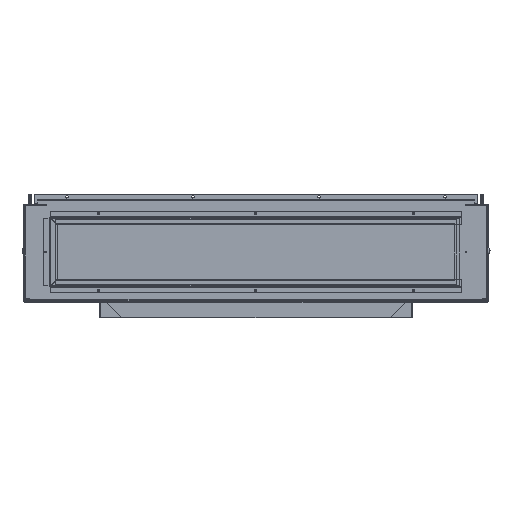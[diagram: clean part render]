
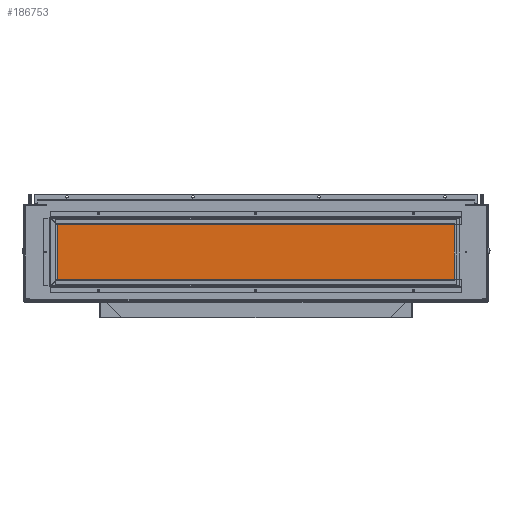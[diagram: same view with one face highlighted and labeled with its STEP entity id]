
A CAD part, front view. The second image highlights one B-rep face of the part: STEP entity #186753.
In plain terms, the highlighted planar face has unit normal (0, -1, 0).
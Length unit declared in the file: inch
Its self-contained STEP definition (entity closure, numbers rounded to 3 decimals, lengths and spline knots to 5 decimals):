
#25 = LINE ( 'NONE', #131929, #170456 ) ;
#16052 = LINE ( 'NONE', #179492, #98576 ) ;
#16205 = ORIENTED_EDGE ( 'NONE', *, *, #155384, .F. ) ;
#18794 = CARTESIAN_POINT ( 'NONE',  ( 20.96339, -33.14742, 9.87424 ) ) ;
#20659 = DIRECTION ( 'NONE',  ( 0., 1., 0. ) ) ;
#31165 = CARTESIAN_POINT ( 'NONE',  ( -17.03661, -33.14741, 4.49924 ) ) ;
#33397 = FACE_OUTER_BOUND ( 'NONE', #42596, .T. ) ;
#36538 = PLANE ( 'NONE',  #45946 ) ;
#38989 = VERTEX_POINT ( 'NONE', #18794 ) ;
#42596 = EDGE_LOOP ( 'NONE', ( #16205, #197906, #205701, #78580 ) ) ;
#45946 = AXIS2_PLACEMENT_3D ( 'NONE', #119418, #20659, #135973 ) ;
#49383 = CARTESIAN_POINT ( 'NONE',  ( -17.03661, -33.14741, 9.87424 ) ) ;
#54834 = VERTEX_POINT ( 'NONE', #153029 ) ;
#69801 = EDGE_CURVE ( 'NONE', #77071, #183403, #206677, .T. ) ;
#76144 = EDGE_CURVE ( 'NONE', #54834, #77071, #116364, .T. ) ;
#77071 = VERTEX_POINT ( 'NONE', #143974 ) ;
#78580 = ORIENTED_EDGE ( 'NONE', *, *, #76144, .F. ) ;
#98576 = VECTOR ( 'NONE', #196026, 39.37008 ) ;
#104139 = EDGE_CURVE ( 'NONE', #183403, #38989, #25, .T. ) ;
#116085 = DIRECTION ( 'NONE',  ( 1., 0., 0. ) ) ;
#116364 = LINE ( 'NONE', #31165, #155087 ) ;
#119418 = CARTESIAN_POINT ( 'NONE',  ( 1.96339, -33.14741, 7.18674 ) ) ;
#129478 = CARTESIAN_POINT ( 'NONE',  ( -17.03661, -33.14741, 9.87424 ) ) ;
#131929 = CARTESIAN_POINT ( 'NONE',  ( -17.03661, -33.14741, 9.87424 ) ) ;
#135973 = DIRECTION ( 'NONE',  ( -1., 0., 0. ) ) ;
#143974 = CARTESIAN_POINT ( 'NONE',  ( -17.03661, -33.14741, 4.49924 ) ) ;
#146086 = DIRECTION ( 'NONE',  ( 0., 0., 1. ) ) ;
#146533 = DIRECTION ( 'NONE',  ( -1., 0., 0. ) ) ;
#153029 = CARTESIAN_POINT ( 'NONE',  ( 20.96339, -33.14742, 4.49924 ) ) ;
#155087 = VECTOR ( 'NONE', #146533, 39.37008 ) ;
#155384 = EDGE_CURVE ( 'NONE', #38989, #54834, #16052, .T. ) ;
#170456 = VECTOR ( 'NONE', #116085, 39.37008 ) ;
#179492 = CARTESIAN_POINT ( 'NONE',  ( 20.96339, -33.14742, 9.87424 ) ) ;
#183403 = VERTEX_POINT ( 'NONE', #49383 ) ;
#186753 = ADVANCED_FACE ( 'NONE', ( #33397 ), #36538, .F. ) ;
#196026 = DIRECTION ( 'NONE',  ( 0., 0., -1. ) ) ;
#197906 = ORIENTED_EDGE ( 'NONE', *, *, #104139, .F. ) ;
#201482 = VECTOR ( 'NONE', #146086, 39.37008 ) ;
#205701 = ORIENTED_EDGE ( 'NONE', *, *, #69801, .F. ) ;
#206677 = LINE ( 'NONE', #129478, #201482 ) ;
